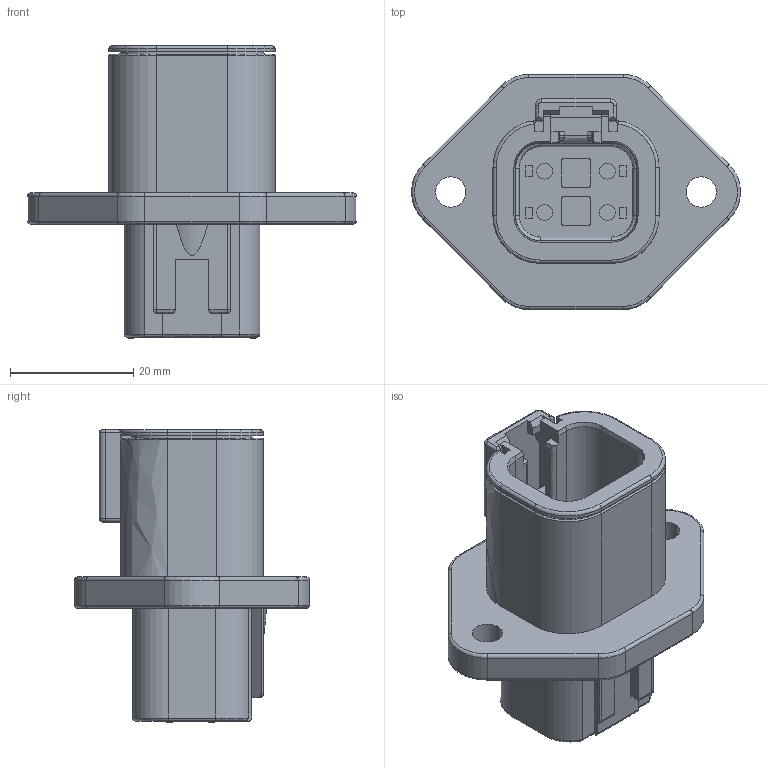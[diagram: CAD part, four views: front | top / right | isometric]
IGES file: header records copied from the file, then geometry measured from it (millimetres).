
Start section:  PTC IGES file: c-dtp04-4p-l012-99-3d.igs
Global section: file name: c-dtp04-4p-l012-99-3d.igs; native system: Pro/ENGINEER by Parametric Technology Corporation; preprocessor: 2011490; author: workeradm; organization: Unknown; units: millimetre
Bounding box: 53.29 x 38.1 x 47.47 mm (x, y, z)
Surface area: 10190.7 mm2 (no closed solid volume)
Topology: 0 solids, 0 shells, 537 faces, 2710 edges, 2710 vertices
Faces by surface type: bspline 301, revolution 236
